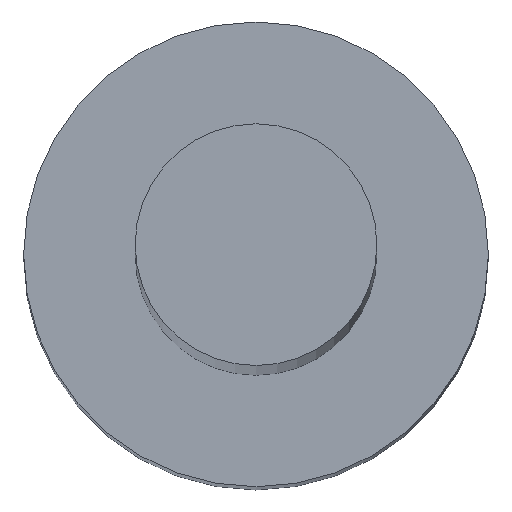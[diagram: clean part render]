
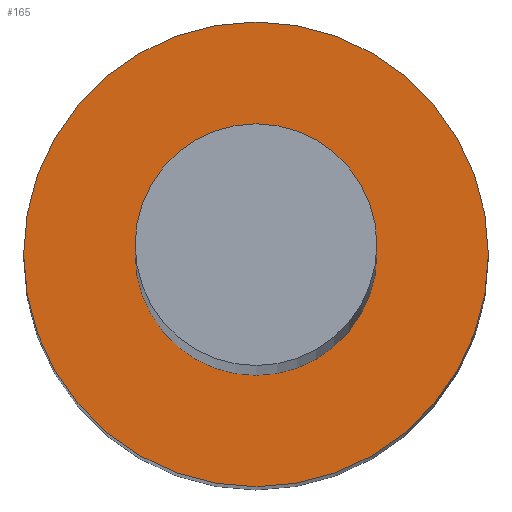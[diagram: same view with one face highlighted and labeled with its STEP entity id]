
A CAD part, top view. The second image highlights one B-rep face of the part: STEP entity #165.
In plain terms, the highlighted planar face has unit normal (0, 0, 1).
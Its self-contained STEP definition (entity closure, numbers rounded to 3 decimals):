
#13 = CARTESIAN_POINT ( 'NONE',  ( 0., 0., 10. ) ) ;
#28 = AXIS2_PLACEMENT_3D ( 'NONE', #13, #167, #247 ) ;
#44 = CARTESIAN_POINT ( 'NONE',  ( 0., 0., 10. ) ) ;
#55 = CARTESIAN_POINT ( 'NONE',  ( 0.65, 0., 10. ) ) ;
#72 = DIRECTION ( 'NONE',  ( 0., 0., 1. ) ) ;
#75 = DIRECTION ( 'NONE',  ( 0., 0., 1. ) ) ;
#83 = DIRECTION ( 'NONE',  ( 1., 0., 0. ) ) ;
#91 = AXIS2_PLACEMENT_3D ( 'NONE', #422, #72, #83 ) ;
#103 = VERTEX_POINT ( 'NONE', #374 ) ;
#107 = FACE_OUTER_BOUND ( 'NONE', #378, .T. ) ;
#108 = VERTEX_POINT ( 'NONE', #410 ) ;
#134 = ORIENTED_EDGE ( 'NONE', *, *, #171, .F. ) ;
#135 = CARTESIAN_POINT ( 'NONE',  ( -0.65, 0., 10. ) ) ;
#156 = AXIS2_PLACEMENT_3D ( 'NONE', #44, #75, #486 ) ;
#165 = ADVANCED_FACE ( 'NONE', ( #255, #107 ), #450, .T. ) ;
#167 = DIRECTION ( 'NONE',  ( 0., 0., 1. ) ) ;
#171 = EDGE_CURVE ( 'NONE', #386, #180, #471, .T. ) ;
#175 = CIRCLE ( 'NONE', #91, 1.25 ) ;
#180 = VERTEX_POINT ( 'NONE', #135 ) ;
#190 = DIRECTION ( 'NONE',  ( 1., 0., 0. ) ) ;
#222 = DIRECTION ( 'NONE',  ( 0., 0., 1. ) ) ;
#237 = CIRCLE ( 'NONE', #482, 0.65 ) ;
#241 = CARTESIAN_POINT ( 'NONE',  ( 0., 0., 10. ) ) ;
#247 = DIRECTION ( 'NONE',  ( 1., 0., 0. ) ) ;
#249 = ORIENTED_EDGE ( 'NONE', *, *, #372, .T. ) ;
#250 = CIRCLE ( 'NONE', #28, 1.25 ) ;
#255 = FACE_BOUND ( 'NONE', #346, .T. ) ;
#271 = ORIENTED_EDGE ( 'NONE', *, *, #290, .T. ) ;
#290 = EDGE_CURVE ( 'NONE', #103, #108, #175, .T. ) ;
#327 = DIRECTION ( 'NONE',  ( 1., 0., 0. ) ) ;
#346 = EDGE_LOOP ( 'NONE', ( #418, #134 ) ) ;
#370 = EDGE_CURVE ( 'NONE', #180, #386, #237, .T. ) ;
#372 = EDGE_CURVE ( 'NONE', #108, #103, #250, .T. ) ;
#374 = CARTESIAN_POINT ( 'NONE',  ( -1.25, 0., 10. ) ) ;
#378 = EDGE_LOOP ( 'NONE', ( #271, #249 ) ) ;
#386 = VERTEX_POINT ( 'NONE', #55 ) ;
#400 = DIRECTION ( 'NONE',  ( 0., 0., 1. ) ) ;
#410 = CARTESIAN_POINT ( 'NONE',  ( 1.25, 0., 10. ) ) ;
#418 = ORIENTED_EDGE ( 'NONE', *, *, #370, .F. ) ;
#422 = CARTESIAN_POINT ( 'NONE',  ( 0., 0., 10. ) ) ;
#424 = CARTESIAN_POINT ( 'NONE',  ( 0., 0., 10. ) ) ;
#450 = PLANE ( 'NONE',  #156 ) ;
#466 = AXIS2_PLACEMENT_3D ( 'NONE', #424, #222, #327 ) ;
#471 = CIRCLE ( 'NONE', #466, 0.65 ) ;
#482 = AXIS2_PLACEMENT_3D ( 'NONE', #241, #400, #190 ) ;
#486 = DIRECTION ( 'NONE',  ( 1., 0., 0. ) ) ;
